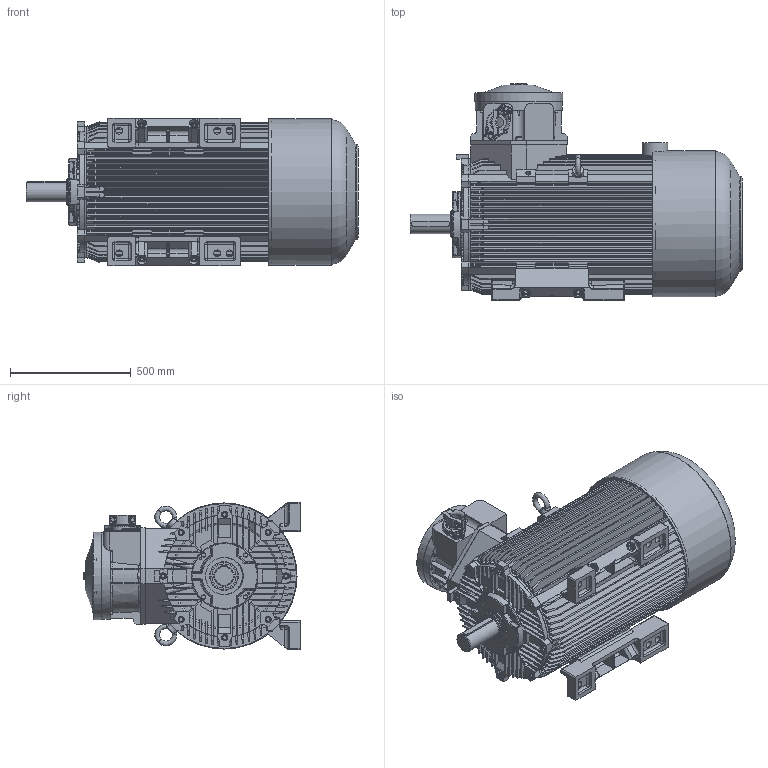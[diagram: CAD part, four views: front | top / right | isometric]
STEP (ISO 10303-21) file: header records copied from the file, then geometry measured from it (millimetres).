
FILE_DESCRIPTION(/* description */ ('Unknown'),/* implementation_level */ '2;1');
FILE_NAME(/* name */ 'cSTe(b)315M4(A,B), M(6,8)B-N-IE(2,3)',/* time_stamp */ '2022-04-19T13:43:59+02:00',/* author */ ('Unknown'),/* organization */ ('Unknown'),/* preprocessor_version */ 'ST-DEVELOPER v16.7',/* originating_system */ 'DEX',/* authorisation */ $);
FILE_SCHEMA (('AUTOMOTIVE_DESIGN {1 0 10303 214 3 1 1}'));
Length unit declared in the file: millimetre
Products named in the file (1): cSTe(b)315M4(A,B), M(6,8)B-N-IE(2,3)
Bounding box: 1374.95 x 895 x 610.06 mm (x, y, z)
Volume: 306145503 mm3; surface area: 7506888.5 mm2
Topology: 1 solids, 66 shells, 3161 faces, 8212 edges, 5218 vertices
Faces by surface type: plane 1405, cylinder 952, cone 377, torus 231, bspline 128, sphere 68
Full cylindrical faces by diameter (mm): 2.459 x4, 2.8 x2, 3 x4, 6 x2, 6.3 x1, 8.16 x6, 8.376 x12, 8.917 x2, 10 x10, 10.106 x10, 11 x6, 12 x16, 13.5 x8, 13.546 x11, 13.835 x15, 14 x1, 14.63 x8, 16 x16, 17.5 x12, 18 x8, 19.6 x2, 20.319 x4, 20.752 x10, 22 x8, 24 x12, 26 x12, 28 x6, 40 x4, 44 x1, 60.376 x1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
Entity records: 123049 total; most frequent: CARTESIAN_POINT 26669, DIRECTION 15458, ORIENTED_EDGE 15120, EDGE_CURVE 7560, AXIS2_PLACEMENT_3D 5849, VERTEX_POINT 5028, FACE_BOUND 3788, EDGE_LOOP 3764
